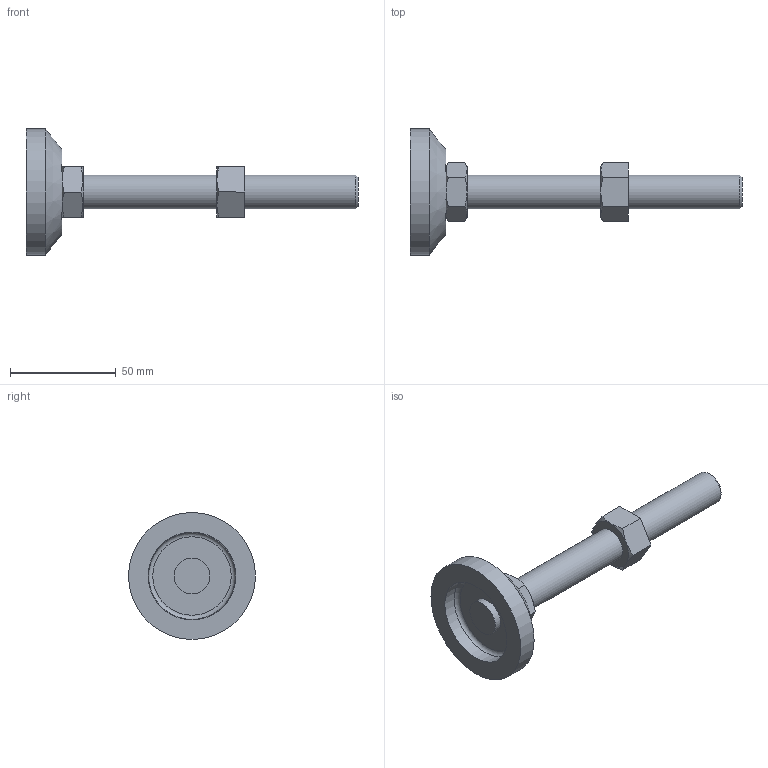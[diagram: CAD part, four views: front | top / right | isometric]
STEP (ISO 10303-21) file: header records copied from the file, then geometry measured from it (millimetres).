
FILE_DESCRIPTION((''),'2;1');
FILE_NAME('C:\Documents and Settings\akey00\デスクトップ\NIC2Ｄ_3D_CAD\3_06完\【提出用】レベリングフット\3D_LFF-16\Imported Components\3D_LFF-16\3D_LFF-16.stp','2013-03-06T18:37:52',(''),('NIC Autotec, Inc.'),'Autodesk Inventor 2013','Autodesk Inventor 2013','');
FILE_SCHEMA(('CONFIG_CONTROL_DESIGN'));
Length unit declared in the file: millimetre
Products named in the file (1): 3D_LFF-16
Bounding box: 157 x 60 x 60 mm (x, y, z)
Volume: 66490.2 mm3; surface area: 17263.1 mm2
Topology: 1 solids, 1 shells, 31 faces, 69 edges, 46 vertices
Faces by surface type: plane 20, cone 6, cylinder 4, torus 1
Full cylindrical faces by diameter (mm): 16 x2, 17 x1, 60 x1
Entity records: 844 total; most frequent: CARTESIAN_POINT 184, ORIENTED_EDGE 116, DIRECTION 114, EDGE_CURVE 58, AXIS2_PLACEMENT_3D 48, EDGE_LOOP 48, VERTEX_POINT 46, STYLED_ITEM 32
